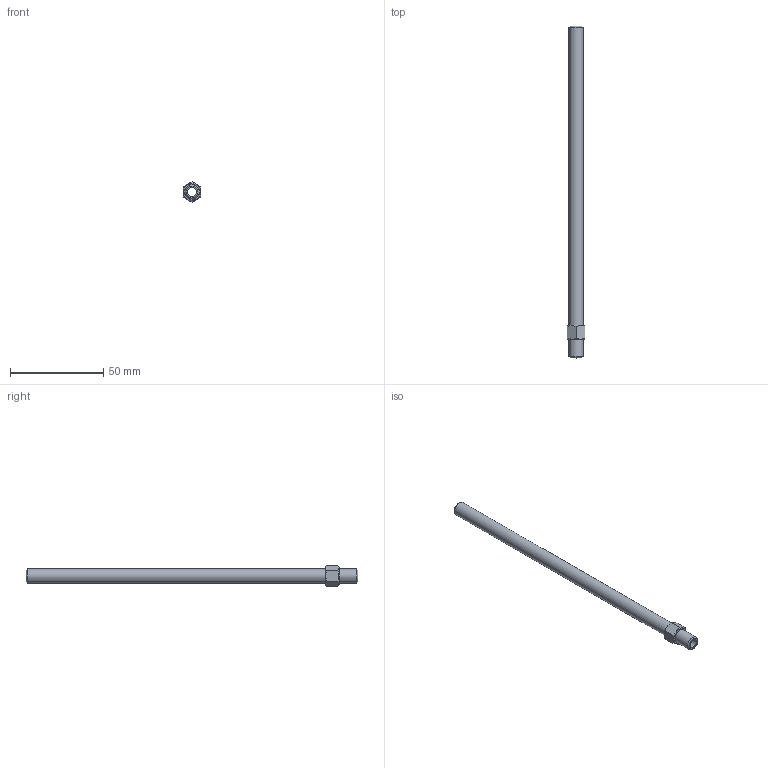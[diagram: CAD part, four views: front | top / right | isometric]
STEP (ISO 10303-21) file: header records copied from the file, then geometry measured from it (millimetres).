
FILE_DESCRIPTION(/* description */ (''),/* implementation_level */ '2;1');
FILE_NAME(/* name */ 'C:/Users/drich/Desktop/APN16-7 v1.step',/* time_stamp */ '2019-12-27T17:49:33-06:00',/* author */ (''),/* organization */ (''),/* preprocessor_version */ 'ST-DEVELOPER v18',/* originating_system */ 'Autodesk Translation Framework v8.12.0.6',/* authorisation */ '');
FILE_SCHEMA (('AUTOMOTIVE_DESIGN { 1 0 10303 214 3 1 1 }'));
Length unit declared in the file: inch
Products named in the file (1): APN16-7
Bounding box: 9.5 x 177.8 x 10.97 mm (x, y, z)
Volume: 5206.8 mm3; surface area: 7046.6 mm2
Topology: 1 solids, 1 shells, 17 faces, 39 edges, 26 vertices
Faces by surface type: plane 10, cone 4, cylinder 3
Full cylindrical faces by diameter (mm): 4.724 x1, 7.616 x2
Entity records: 521 total; most frequent: CARTESIAN_POINT 107, ORIENTED_EDGE 78, DIRECTION 77, EDGE_CURVE 39, AXIS2_PLACEMENT_3D 32, VERTEX_POINT 26, EDGE_LOOP 21, FACE_OUTER_BOUND 17
